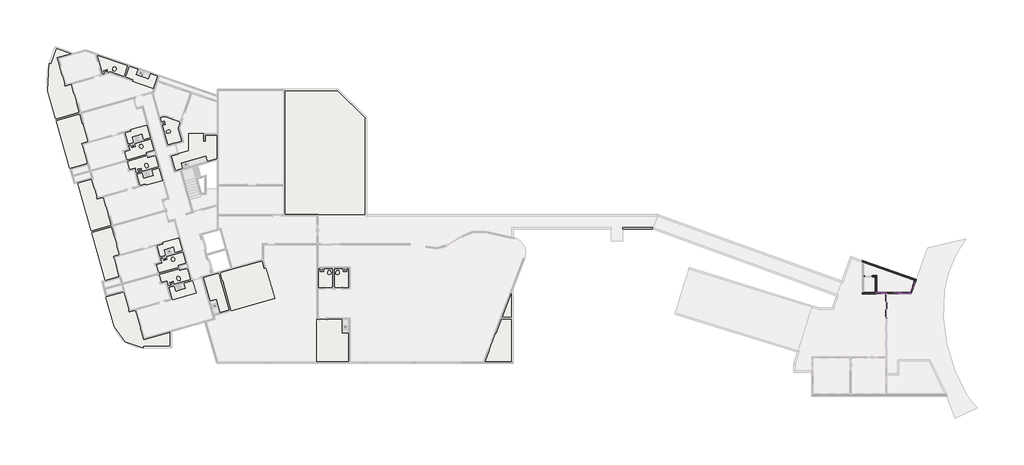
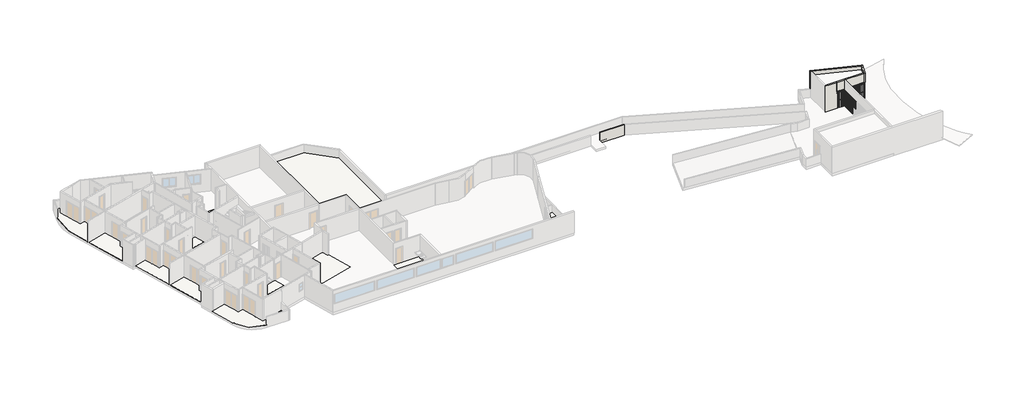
# One storey, part 5 of 7: 73 plates, 24 slabs, 8 walls.
"""IFC4 building model written with IfcOpenShell, lengths in millimetres."""

from ifc_helpers import new_model, si_unit, point, frame, frame_2d, origin, place, context, project, spatial, polyline, circle_curve, trimmed, segment, composite_curve, outline, extrude, faceted_brep, transform, mapped, element, save
from components import painel_do_sistema_vazio_vazio_5b504051, painel_do_sistema_vazio_vazio_cea5b844, painel_do_sistema_vazio_vazio_98beb3ec, painel_do_sistema_vazio_vazio_8c16bc2d, painel_do_sistema_vazio_vazio_411dd57f, painel_do_sistema_vazio_vazio_954907b5, painel_do_sistema_vazio_vazio_9710a491, painel_do_sistema_vazio_vazio_0994bb64

model = new_model("IFC4")

# Units and contexts
model_context = context("Model", 3, world=origin())
ifc_project = project(units=[si_unit("LENGTHUNIT", "METRE", prefix="MILLI")], contexts=[model_context])

# Site, building, storey
site = spatial("IfcSite", under=ifc_project)
building = spatial("IfcBuilding", under=site)
storey = spatial("IfcBuildingStorey", under=building, Name="Térreo", Elevation=50750.0)

# Plates
placement = place(None, origin())
painel_do_sistema_vazio_vazio_shape = painel_do_sistema_vazio_vazio_5b504051(model_context)
element("IfcPlate", 1, ObjectType="Painel do sistema vazio : Vazio", at=placement, inside=storey, context=model_context, shape_type="MappedRepresentation", body=[
    mapped(painel_do_sistema_vazio_vazio_shape, transform((-7154.3595925, 10632.3610556, 50030.0), x_axis=(1.0, 0.0, 0.0), y_axis=(0.0, 1.0, 0.0), z_axis=(0.0, 0.0, 1.0))),
])
element("IfcPlate", 2, ObjectType="Painel do sistema vazio : Vazio", at=placement, inside=storey, context=model_context, shape_type="MappedRepresentation", body=[
    mapped(painel_do_sistema_vazio_vazio_shape, transform((-7154.3595925, 10632.3610556, 51065.0), x_axis=(1.0, 0.0, 0.0), y_axis=(0.0, 1.0, 0.0), z_axis=(0.0, 0.0, 1.0))),
])
element("IfcPlate", 3, ObjectType="Painel do sistema vazio : Vazio", at=placement, inside=storey, context=model_context, shape_type="MappedRepresentation", body=[
    mapped(painel_do_sistema_vazio_vazio_shape, transform((-6307.2050217, 10632.3610556, 50030.0), x_axis=(1.0, 0.0, 0.0), y_axis=(0.0, 1.0, 0.0), z_axis=(0.0, 0.0, 1.0))),
])
element("IfcPlate", 4, ObjectType="Painel do sistema vazio : Vazio", at=placement, inside=storey, context=model_context, shape_type="MappedRepresentation", body=[
    mapped(painel_do_sistema_vazio_vazio_shape, transform((-6307.2050217, 10632.3610556, 51065.0), x_axis=(1.0, 0.0, 0.0), y_axis=(0.0, 1.0, 0.0), z_axis=(0.0, 0.0, 1.0))),
])
painel_do_sistema_vazio_vazio_2_shape = painel_do_sistema_vazio_vazio_cea5b844(model_context)
element("IfcPlate", 5, ObjectType="Painel do sistema vazio : Vazio", at=placement, inside=storey, context=model_context, shape_type="MappedRepresentation", body=[
    mapped(painel_do_sistema_vazio_vazio_2_shape, transform((-6989.4286782, 10632.3610556, 50030.0), x_axis=(1.0, 0.0, 0.0), y_axis=(0.0, 1.0, 0.0), z_axis=(0.0, 0.0, 1.0))),
])
element("IfcPlate", 6, ObjectType="Painel do sistema vazio : Vazio", at=placement, inside=storey, context=model_context, shape_type="MappedRepresentation", body=[
    mapped(painel_do_sistema_vazio_vazio_2_shape, transform((-6816.9977641, 10632.3610556, 50030.0), x_axis=(1.0, 0.0, 0.0), y_axis=(0.0, 1.0, 0.0), z_axis=(0.0, 0.0, 1.0))),
])
element("IfcPlate", 7, ObjectType="Painel do sistema vazio : Vazio", at=placement, inside=storey, context=model_context, shape_type="MappedRepresentation", body=[
    mapped(painel_do_sistema_vazio_vazio_2_shape, transform((-6644.56685, 10632.3610556, 50030.0), x_axis=(1.0, 0.0, 0.0), y_axis=(0.0, 1.0, 0.0), z_axis=(0.0, 0.0, 1.0))),
])
element("IfcPlate", 8, ObjectType="Painel do sistema vazio : Vazio", at=placement, inside=storey, context=model_context, shape_type="MappedRepresentation", body=[
    mapped(painel_do_sistema_vazio_vazio_2_shape, transform((-6472.1359359, 10632.3610556, 50030.0), x_axis=(1.0, 0.0, 0.0), y_axis=(0.0, 1.0, 0.0), z_axis=(0.0, 0.0, 1.0))),
])
element("IfcPlate", 9, ObjectType="Painel do sistema vazio : Vazio", at=placement, inside=storey, context=model_context, shape_type="MappedRepresentation", body=[
    mapped(painel_do_sistema_vazio_vazio_2_shape, transform((-6989.4286782, 10632.3610556, 51065.0), x_axis=(1.0, 0.0, 0.0), y_axis=(0.0, 1.0, 0.0), z_axis=(0.0, 0.0, 1.0))),
])
element("IfcPlate", 10, ObjectType="Painel do sistema vazio : Vazio", at=placement, inside=storey, context=model_context, shape_type="MappedRepresentation", body=[
    mapped(painel_do_sistema_vazio_vazio_2_shape, transform((-6816.9977641, 10632.3610556, 51065.0), x_axis=(1.0, 0.0, 0.0), y_axis=(0.0, 1.0, 0.0), z_axis=(0.0, 0.0, 1.0))),
])
element("IfcPlate", 11, ObjectType="Painel do sistema vazio : Vazio", at=placement, inside=storey, context=model_context, shape_type="MappedRepresentation", body=[
    mapped(painel_do_sistema_vazio_vazio_2_shape, transform((-6644.56685, 10632.3610556, 51065.0), x_axis=(1.0, 0.0, 0.0), y_axis=(0.0, 1.0, 0.0), z_axis=(0.0, 0.0, 1.0))),
])
element("IfcPlate", 12, ObjectType="Painel do sistema vazio : Vazio", at=placement, inside=storey, context=model_context, shape_type="MappedRepresentation", body=[
    mapped(painel_do_sistema_vazio_vazio_2_shape, transform((-6472.1359359, 10632.3610556, 51065.0), x_axis=(1.0, 0.0, 0.0), y_axis=(0.0, 1.0, 0.0), z_axis=(0.0, 0.0, 1.0))),
])
painel_do_sistema_vazio_vazio_3_shape = painel_do_sistema_vazio_vazio_98beb3ec(model_context)
element("IfcPlate", 13, ObjectType="Painel do sistema vazio : Vazio", at=placement, inside=storey, context=model_context, shape_type="MappedRepresentation", body=[
    mapped(painel_do_sistema_vazio_vazio_3_shape, transform((-5921.5446431, 10632.3610556, 50030.0), x_axis=(1.0, 0.0, 0.0), y_axis=(0.0, 1.0, 0.0), z_axis=(0.0, 0.0, 1.0))),
])
element("IfcPlate", 14, ObjectType="Painel do sistema vazio : Vazio", at=placement, inside=storey, context=model_context, shape_type="MappedRepresentation", body=[
    mapped(painel_do_sistema_vazio_vazio_3_shape, transform((-5726.9146956, 10632.3610556, 50030.0), x_axis=(1.0, 0.0, 0.0), y_axis=(0.0, 1.0, 0.0), z_axis=(0.0, 0.0, 1.0))),
])
element("IfcPlate", 15, ObjectType="Painel do sistema vazio : Vazio", at=placement, inside=storey, context=model_context, shape_type="MappedRepresentation", body=[
    mapped(painel_do_sistema_vazio_vazio_3_shape, transform((-5532.2847482, 10632.3610556, 50030.0), x_axis=(1.0, 0.0, 0.0), y_axis=(0.0, 1.0, 0.0), z_axis=(0.0, 0.0, 1.0))),
])
element("IfcPlate", 16, ObjectType="Painel do sistema vazio : Vazio", at=placement, inside=storey, context=model_context, shape_type="MappedRepresentation", body=[
    mapped(painel_do_sistema_vazio_vazio_3_shape, transform((-5337.6548008, 10632.3610556, 50030.0), x_axis=(1.0, 0.0, 0.0), y_axis=(0.0, 1.0, 0.0), z_axis=(0.0, 0.0, 1.0))),
])
element("IfcPlate", 17, ObjectType="Painel do sistema vazio : Vazio", at=placement, inside=storey, context=model_context, shape_type="MappedRepresentation", body=[
    mapped(painel_do_sistema_vazio_vazio_3_shape, transform((-5143.0248534, 10632.3610556, 50030.0), x_axis=(1.0, 0.0, 0.0), y_axis=(0.0, 1.0, 0.0), z_axis=(0.0, 0.0, 1.0))),
])
element("IfcPlate", 18, ObjectType="Painel do sistema vazio : Vazio", at=placement, inside=storey, context=model_context, shape_type="MappedRepresentation", body=[
    mapped(painel_do_sistema_vazio_vazio_3_shape, transform((-4948.3949059, 10632.3610556, 50030.0), x_axis=(1.0, 0.0, 0.0), y_axis=(0.0, 1.0, 0.0), z_axis=(0.0, 0.0, 1.0))),
])
element("IfcPlate", 19, ObjectType="Painel do sistema vazio : Vazio", at=placement, inside=storey, context=model_context, shape_type="MappedRepresentation", body=[
    mapped(painel_do_sistema_vazio_vazio_3_shape, transform((-4753.7649585, 10632.3610556, 50030.0), x_axis=(1.0, 0.0, 0.0), y_axis=(0.0, 1.0, 0.0), z_axis=(0.0, 0.0, 1.0))),
])
element("IfcPlate", 20, ObjectType="Painel do sistema vazio : Vazio", at=placement, inside=storey, context=model_context, shape_type="MappedRepresentation", body=[
    mapped(painel_do_sistema_vazio_vazio_3_shape, transform((-5921.5446431, 10632.3610556, 51065.0), x_axis=(1.0, 0.0, 0.0), y_axis=(0.0, 1.0, 0.0), z_axis=(0.0, 0.0, 1.0))),
])
element("IfcPlate", 21, ObjectType="Painel do sistema vazio : Vazio", at=placement, inside=storey, context=model_context, shape_type="MappedRepresentation", body=[
    mapped(painel_do_sistema_vazio_vazio_3_shape, transform((-5726.9146956, 10632.3610556, 51065.0), x_axis=(1.0, 0.0, 0.0), y_axis=(0.0, 1.0, 0.0), z_axis=(0.0, 0.0, 1.0))),
])
element("IfcPlate", 22, ObjectType="Painel do sistema vazio : Vazio", at=placement, inside=storey, context=model_context, shape_type="MappedRepresentation", body=[
    mapped(painel_do_sistema_vazio_vazio_3_shape, transform((-5532.2847482, 10632.3610556, 51065.0), x_axis=(1.0, 0.0, 0.0), y_axis=(0.0, 1.0, 0.0), z_axis=(0.0, 0.0, 1.0))),
])
element("IfcPlate", 23, ObjectType="Painel do sistema vazio : Vazio", at=placement, inside=storey, context=model_context, shape_type="MappedRepresentation", body=[
    mapped(painel_do_sistema_vazio_vazio_3_shape, transform((-5337.6548008, 10632.3610556, 51065.0), x_axis=(1.0, 0.0, 0.0), y_axis=(0.0, 1.0, 0.0), z_axis=(0.0, 0.0, 1.0))),
])
element("IfcPlate", 24, ObjectType="Painel do sistema vazio : Vazio", at=placement, inside=storey, context=model_context, shape_type="MappedRepresentation", body=[
    mapped(painel_do_sistema_vazio_vazio_3_shape, transform((-5143.0248534, 10632.3610556, 51065.0), x_axis=(1.0, 0.0, 0.0), y_axis=(0.0, 1.0, 0.0), z_axis=(0.0, 0.0, 1.0))),
])
element("IfcPlate", 25, ObjectType="Painel do sistema vazio : Vazio", at=placement, inside=storey, context=model_context, shape_type="MappedRepresentation", body=[
    mapped(painel_do_sistema_vazio_vazio_3_shape, transform((-4948.3949059, 10632.3610556, 51065.0), x_axis=(1.0, 0.0, 0.0), y_axis=(0.0, 1.0, 0.0), z_axis=(0.0, 0.0, 1.0))),
])
element("IfcPlate", 26, ObjectType="Painel do sistema vazio : Vazio", at=placement, inside=storey, context=model_context, shape_type="MappedRepresentation", body=[
    mapped(painel_do_sistema_vazio_vazio_3_shape, transform((-4753.7649585, 10632.3610556, 51065.0), x_axis=(1.0, 0.0, 0.0), y_axis=(0.0, 1.0, 0.0), z_axis=(0.0, 0.0, 1.0))),
])
element("IfcPlate", 27, ObjectType="Painel do sistema vazio : Vazio", at=placement, inside=storey, context=model_context, shape_type="MappedRepresentation", body=[
    mapped(painel_do_sistema_vazio_vazio_3_shape, transform((-4559.1350111, 10632.3610556, 50030.0), x_axis=(1.0, 0.0, 0.0), y_axis=(0.0, 1.0, 0.0), z_axis=(0.0, 0.0, 1.0))),
])
element("IfcPlate", 28, ObjectType="Painel do sistema vazio : Vazio", at=placement, inside=storey, context=model_context, shape_type="MappedRepresentation", body=[
    mapped(painel_do_sistema_vazio_vazio_3_shape, transform((-4559.1350111, 10632.3610556, 51065.0), x_axis=(1.0, 0.0, 0.0), y_axis=(0.0, 1.0, 0.0), z_axis=(0.0, 0.0, 1.0))),
])
element("IfcPlate", 29, ObjectType="Painel do sistema vazio : Vazio", at=placement, inside=storey, context=model_context, shape_type="MappedRepresentation", body=[
    mapped(painel_do_sistema_vazio_vazio_3_shape, transform((-4364.5050637, 10632.3610556, 50030.0), x_axis=(1.0, 0.0, 0.0), y_axis=(0.0, 1.0, 0.0), z_axis=(0.0, 0.0, 1.0))),
])
element("IfcPlate", 30, ObjectType="Painel do sistema vazio : Vazio", at=placement, inside=storey, context=model_context, shape_type="MappedRepresentation", body=[
    mapped(painel_do_sistema_vazio_vazio_3_shape, transform((-4364.5050637, 10632.3610556, 51065.0), x_axis=(1.0, 0.0, 0.0), y_axis=(0.0, 1.0, 0.0), z_axis=(0.0, 0.0, 1.0))),
])
element("IfcPlate", 31, ObjectType="Painel do sistema vazio : Vazio", at=placement, inside=storey, context=model_context, shape_type="MappedRepresentation", body=[
    mapped(painel_do_sistema_vazio_vazio_3_shape, transform((-4169.8751163, 10632.3610556, 50030.0), x_axis=(1.0, 0.0, 0.0), y_axis=(0.0, 1.0, 0.0), z_axis=(0.0, 0.0, 1.0))),
])
element("IfcPlate", 32, ObjectType="Painel do sistema vazio : Vazio", at=placement, inside=storey, context=model_context, shape_type="MappedRepresentation", body=[
    mapped(painel_do_sistema_vazio_vazio_3_shape, transform((-4169.8751163, 10632.3610556, 51065.0), x_axis=(1.0, 0.0, 0.0), y_axis=(0.0, 1.0, 0.0), z_axis=(0.0, 0.0, 1.0))),
])
element("IfcPlate", 33, ObjectType="Painel do sistema vazio : Vazio", at=placement, inside=storey, context=model_context, shape_type="MappedRepresentation", body=[
    mapped(painel_do_sistema_vazio_vazio_3_shape, transform((-3975.2451688, 10632.3610556, 50030.0), x_axis=(1.0, 0.0, 0.0), y_axis=(0.0, 1.0, 0.0), z_axis=(0.0, 0.0, 1.0))),
])
element("IfcPlate", 34, ObjectType="Painel do sistema vazio : Vazio", at=placement, inside=storey, context=model_context, shape_type="MappedRepresentation", body=[
    mapped(painel_do_sistema_vazio_vazio_3_shape, transform((-3975.2451688, 10632.3610556, 51065.0), x_axis=(1.0, 0.0, 0.0), y_axis=(0.0, 1.0, 0.0), z_axis=(0.0, 0.0, 1.0))),
])
painel_do_sistema_vazio_vazio_4_shape = painel_do_sistema_vazio_vazio_8c16bc2d(model_context)
element("IfcPlate", 35, ObjectType="Painel do sistema vazio : Vazio", at=placement, inside=storey, context=model_context, shape_type="MappedRepresentation", body=[
    mapped(painel_do_sistema_vazio_vazio_4_shape, transform((-3340.1006139, 11602.8896623, 50030.0), x_axis=(-0.33339028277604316, -0.942788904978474, 0.0), y_axis=(0.942788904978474, -0.33339028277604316, 0.0), z_axis=(0.0, 0.0, 1.0))),
])
element("IfcPlate", 36, ObjectType="Painel do sistema vazio : Vazio", at=placement, inside=storey, context=model_context, shape_type="MappedRepresentation", body=[
    mapped(painel_do_sistema_vazio_vazio_4_shape, transform((-3649.372542, 10728.3046565, 50030.0), x_axis=(-0.33339028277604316, -0.942788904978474, 0.0), y_axis=(0.942788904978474, -0.33339028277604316, 0.0), z_axis=(0.0, 0.0, 1.0))),
])
element("IfcPlate", 37, ObjectType="Painel do sistema vazio : Vazio", at=placement, inside=storey, context=model_context, shape_type="MappedRepresentation", body=[
    mapped(painel_do_sistema_vazio_vazio_4_shape, transform((-3340.1006139, 11602.8896623, 51065.0), x_axis=(-0.33339028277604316, -0.942788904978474, 0.0), y_axis=(0.942788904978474, -0.33339028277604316, 0.0), z_axis=(0.0, 0.0, 1.0))),
])
element("IfcPlate", 38, ObjectType="Painel do sistema vazio : Vazio", at=placement, inside=storey, context=model_context, shape_type="MappedRepresentation", body=[
    mapped(painel_do_sistema_vazio_vazio_4_shape, transform((-3649.372542, 10728.3046565, 51065.0), x_axis=(-0.33339028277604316, -0.942788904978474, 0.0), y_axis=(0.942788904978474, -0.33339028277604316, 0.0), z_axis=(0.0, 0.0, 1.0))),
])
painel_do_sistema_vazio_vazio_5_shape = painel_do_sistema_vazio_vazio_411dd57f(model_context)
element("IfcPlate", 39, ObjectType="Painel do sistema vazio : Vazio", at=placement, inside=storey, context=model_context, shape_type="MappedRepresentation", body=[
    mapped(painel_do_sistema_vazio_vazio_5_shape, transform((-3400.4547433, 11432.2152111, 50030.0), x_axis=(-0.33339028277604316, -0.942788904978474, 0.0), y_axis=(0.942788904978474, -0.33339028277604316, 0.0), z_axis=(0.0, 0.0, 1.0))),
])
element("IfcPlate", 40, ObjectType="Painel do sistema vazio : Vazio", at=placement, inside=storey, context=model_context, shape_type="MappedRepresentation", body=[
    mapped(painel_do_sistema_vazio_vazio_5_shape, transform((-3463.3092997, 11254.4698433, 50030.0), x_axis=(-0.33339028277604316, -0.942788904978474, 0.0), y_axis=(0.942788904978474, -0.33339028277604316, 0.0), z_axis=(0.0, 0.0, 1.0))),
])
element("IfcPlate", 41, ObjectType="Painel do sistema vazio : Vazio", at=placement, inside=storey, context=model_context, shape_type="MappedRepresentation", body=[
    mapped(painel_do_sistema_vazio_vazio_5_shape, transform((-3526.1638562, 11076.7244755, 50030.0), x_axis=(-0.33339028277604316, -0.942788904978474, 0.0), y_axis=(0.942788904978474, -0.33339028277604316, 0.0), z_axis=(0.0, 0.0, 1.0))),
])
element("IfcPlate", 42, ObjectType="Painel do sistema vazio : Vazio", at=placement, inside=storey, context=model_context, shape_type="MappedRepresentation", body=[
    mapped(painel_do_sistema_vazio_vazio_5_shape, transform((-3589.0184126, 10898.9791076, 50030.0), x_axis=(-0.33339028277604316, -0.942788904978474, 0.0), y_axis=(0.942788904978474, -0.33339028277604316, 0.0), z_axis=(0.0, 0.0, 1.0))),
])
element("IfcPlate", 43, ObjectType="Painel do sistema vazio : Vazio", at=placement, inside=storey, context=model_context, shape_type="MappedRepresentation", body=[
    mapped(painel_do_sistema_vazio_vazio_5_shape, transform((-3400.4547433, 11432.2152111, 51065.0), x_axis=(-0.33339028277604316, -0.942788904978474, 0.0), y_axis=(0.942788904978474, -0.33339028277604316, 0.0), z_axis=(0.0, 0.0, 1.0))),
])
element("IfcPlate", 44, ObjectType="Painel do sistema vazio : Vazio", at=placement, inside=storey, context=model_context, shape_type="MappedRepresentation", body=[
    mapped(painel_do_sistema_vazio_vazio_5_shape, transform((-3463.3092997, 11254.4698433, 51065.0), x_axis=(-0.33339028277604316, -0.942788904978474, 0.0), y_axis=(0.942788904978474, -0.33339028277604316, 0.0), z_axis=(0.0, 0.0, 1.0))),
])
element("IfcPlate", 45, ObjectType="Painel do sistema vazio : Vazio", at=placement, inside=storey, context=model_context, shape_type="MappedRepresentation", body=[
    mapped(painel_do_sistema_vazio_vazio_5_shape, transform((-3526.1638562, 11076.7244755, 51065.0), x_axis=(-0.33339028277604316, -0.942788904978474, 0.0), y_axis=(0.942788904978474, -0.33339028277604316, 0.0), z_axis=(0.0, 0.0, 1.0))),
])
element("IfcPlate", 46, ObjectType="Painel do sistema vazio : Vazio", at=placement, inside=storey, context=model_context, shape_type="MappedRepresentation", body=[
    mapped(painel_do_sistema_vazio_vazio_5_shape, transform((-3589.0184126, 10898.9791076, 51065.0), x_axis=(-0.33339028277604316, -0.942788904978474, 0.0), y_axis=(0.942788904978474, -0.33339028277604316, 0.0), z_axis=(0.0, 0.0, 1.0))),
])
painel_do_sistema_vazio_vazio_6_shape = painel_do_sistema_vazio_vazio_954907b5(model_context)
element("IfcPlate", 47, ObjectType="Painel do sistema vazio : Vazio", at=placement, inside=storey, context=model_context, shape_type="MappedRepresentation", body=[
    mapped(painel_do_sistema_vazio_vazio_6_shape, transform((-6213.4895645, 10525.6657681, 50030.0), x_axis=(0.0, 1.0, 0.0), y_axis=(-1.0, 0.0, 0.0), z_axis=(0.0, 0.0, 1.0))),
])
element("IfcPlate", 48, ObjectType="Painel do sistema vazio : Vazio", at=placement, inside=storey, context=model_context, shape_type="MappedRepresentation", body=[
    mapped(painel_do_sistema_vazio_vazio_6_shape, transform((-6213.4895645, 10525.6657681, 51065.0), x_axis=(0.0, 1.0, 0.0), y_axis=(-1.0, 0.0, 0.0), z_axis=(0.0, 0.0, 1.0))),
])
painel_do_sistema_vazio_vazio_7_shape = painel_do_sistema_vazio_vazio_9710a491(model_context)
element("IfcPlate", 49, ObjectType="Painel do sistema vazio : Vazio", at=placement, inside=storey, context=model_context, shape_type="MappedRepresentation", body=[
    mapped(painel_do_sistema_vazio_vazio_7_shape, transform((-6213.4895645, 8747.6505946, 50030.0), x_axis=(0.0, 1.0, 0.0), y_axis=(-1.0, 0.0, 0.0), z_axis=(0.0, 0.0, 1.0))),
])
element("IfcPlate", 50, ObjectType="Painel do sistema vazio : Vazio", at=placement, inside=storey, context=model_context, shape_type="MappedRepresentation", body=[
    mapped(painel_do_sistema_vazio_vazio_7_shape, transform((-6213.4895645, 8946.0411694, 50030.0), x_axis=(0.0, 1.0, 0.0), y_axis=(-1.0, 0.0, 0.0), z_axis=(0.0, 0.0, 1.0))),
])
element("IfcPlate", 51, ObjectType="Painel do sistema vazio : Vazio", at=placement, inside=storey, context=model_context, shape_type="MappedRepresentation", body=[
    mapped(painel_do_sistema_vazio_vazio_7_shape, transform((-6213.4895645, 8152.4788702, 51065.0), x_axis=(0.0, 1.0, 0.0), y_axis=(-1.0, 0.0, 0.0), z_axis=(0.0, 0.0, 1.0))),
])
element("IfcPlate", 52, ObjectType="Painel do sistema vazio : Vazio", at=placement, inside=storey, context=model_context, shape_type="MappedRepresentation", body=[
    mapped(painel_do_sistema_vazio_vazio_7_shape, transform((-6213.4895645, 8350.869445, 51065.0), x_axis=(0.0, 1.0, 0.0), y_axis=(-1.0, 0.0, 0.0), z_axis=(0.0, 0.0, 1.0))),
])
element("IfcPlate", 53, ObjectType="Painel do sistema vazio : Vazio", at=placement, inside=storey, context=model_context, shape_type="MappedRepresentation", body=[
    mapped(painel_do_sistema_vazio_vazio_7_shape, transform((-6213.4895645, 8549.2600198, 51065.0), x_axis=(0.0, 1.0, 0.0), y_axis=(-1.0, 0.0, 0.0), z_axis=(0.0, 0.0, 1.0))),
])
element("IfcPlate", 54, ObjectType="Painel do sistema vazio : Vazio", at=placement, inside=storey, context=model_context, shape_type="MappedRepresentation", body=[
    mapped(painel_do_sistema_vazio_vazio_7_shape, transform((-6213.4895645, 8747.6505946, 51065.0), x_axis=(0.0, 1.0, 0.0), y_axis=(-1.0, 0.0, 0.0), z_axis=(0.0, 0.0, 1.0))),
])
element("IfcPlate", 55, ObjectType="Painel do sistema vazio : Vazio", at=placement, inside=storey, context=model_context, shape_type="MappedRepresentation", body=[
    mapped(painel_do_sistema_vazio_vazio_7_shape, transform((-6213.4895645, 8946.0411694, 51065.0), x_axis=(0.0, 1.0, 0.0), y_axis=(-1.0, 0.0, 0.0), z_axis=(0.0, 0.0, 1.0))),
])
element("IfcPlate", 56, ObjectType="Painel do sistema vazio : Vazio", at=placement, inside=storey, context=model_context, shape_type="MappedRepresentation", body=[
    mapped(painel_do_sistema_vazio_vazio_7_shape, transform((-6213.4895645, 9144.4317442, 50030.0), x_axis=(0.0, 1.0, 0.0), y_axis=(-1.0, 0.0, 0.0), z_axis=(0.0, 0.0, 1.0))),
])
element("IfcPlate", 57, ObjectType="Painel do sistema vazio : Vazio", at=placement, inside=storey, context=model_context, shape_type="MappedRepresentation", body=[
    mapped(painel_do_sistema_vazio_vazio_7_shape, transform((-6213.4895645, 9144.4317442, 51065.0), x_axis=(0.0, 1.0, 0.0), y_axis=(-1.0, 0.0, 0.0), z_axis=(0.0, 0.0, 1.0))),
])
element("IfcPlate", 58, ObjectType="Painel do sistema vazio : Vazio", at=placement, inside=storey, context=model_context, shape_type="MappedRepresentation", body=[
    mapped(painel_do_sistema_vazio_vazio_7_shape, transform((-6213.4895645, 9342.822319, 50030.0), x_axis=(0.0, 1.0, 0.0), y_axis=(-1.0, 0.0, 0.0), z_axis=(0.0, 0.0, 1.0))),
])
element("IfcPlate", 59, ObjectType="Painel do sistema vazio : Vazio", at=placement, inside=storey, context=model_context, shape_type="MappedRepresentation", body=[
    mapped(painel_do_sistema_vazio_vazio_7_shape, transform((-6213.4895645, 9342.822319, 51065.0), x_axis=(0.0, 1.0, 0.0), y_axis=(-1.0, 0.0, 0.0), z_axis=(0.0, 0.0, 1.0))),
])
element("IfcPlate", 60, ObjectType="Painel do sistema vazio : Vazio", at=placement, inside=storey, context=model_context, shape_type="MappedRepresentation", body=[
    mapped(painel_do_sistema_vazio_vazio_7_shape, transform((-6213.4895645, 9541.2128938, 50030.0), x_axis=(0.0, 1.0, 0.0), y_axis=(-1.0, 0.0, 0.0), z_axis=(0.0, 0.0, 1.0))),
])
element("IfcPlate", 61, ObjectType="Painel do sistema vazio : Vazio", at=placement, inside=storey, context=model_context, shape_type="MappedRepresentation", body=[
    mapped(painel_do_sistema_vazio_vazio_7_shape, transform((-6213.4895645, 9541.2128938, 51065.0), x_axis=(0.0, 1.0, 0.0), y_axis=(-1.0, 0.0, 0.0), z_axis=(0.0, 0.0, 1.0))),
])
element("IfcPlate", 62, ObjectType="Painel do sistema vazio : Vazio", at=placement, inside=storey, context=model_context, shape_type="MappedRepresentation", body=[
    mapped(painel_do_sistema_vazio_vazio_7_shape, transform((-6213.4895645, 9739.6034687, 50030.0), x_axis=(0.0, 1.0, 0.0), y_axis=(-1.0, 0.0, 0.0), z_axis=(0.0, 0.0, 1.0))),
])
element("IfcPlate", 63, ObjectType="Painel do sistema vazio : Vazio", at=placement, inside=storey, context=model_context, shape_type="MappedRepresentation", body=[
    mapped(painel_do_sistema_vazio_vazio_7_shape, transform((-6213.4895645, 9739.6034687, 51065.0), x_axis=(0.0, 1.0, 0.0), y_axis=(-1.0, 0.0, 0.0), z_axis=(0.0, 0.0, 1.0))),
])
element("IfcPlate", 64, ObjectType="Painel do sistema vazio : Vazio", at=placement, inside=storey, context=model_context, shape_type="MappedRepresentation", body=[
    mapped(painel_do_sistema_vazio_vazio_7_shape, transform((-6213.4895645, 9937.9940435, 50030.0), x_axis=(0.0, 1.0, 0.0), y_axis=(-1.0, 0.0, 0.0), z_axis=(0.0, 0.0, 1.0))),
])
element("IfcPlate", 65, ObjectType="Painel do sistema vazio : Vazio", at=placement, inside=storey, context=model_context, shape_type="MappedRepresentation", body=[
    mapped(painel_do_sistema_vazio_vazio_7_shape, transform((-6213.4895645, 9937.9940435, 51065.0), x_axis=(0.0, 1.0, 0.0), y_axis=(-1.0, 0.0, 0.0), z_axis=(0.0, 0.0, 1.0))),
])
element("IfcPlate", 66, ObjectType="Painel do sistema vazio : Vazio", at=placement, inside=storey, context=model_context, shape_type="MappedRepresentation", body=[
    mapped(painel_do_sistema_vazio_vazio_7_shape, transform((-6213.4895645, 10136.3846183, 50030.0), x_axis=(0.0, 1.0, 0.0), y_axis=(-1.0, 0.0, 0.0), z_axis=(0.0, 0.0, 1.0))),
])
element("IfcPlate", 67, ObjectType="Painel do sistema vazio : Vazio", at=placement, inside=storey, context=model_context, shape_type="MappedRepresentation", body=[
    mapped(painel_do_sistema_vazio_vazio_7_shape, transform((-6213.4895645, 10136.3846183, 51065.0), x_axis=(0.0, 1.0, 0.0), y_axis=(-1.0, 0.0, 0.0), z_axis=(0.0, 0.0, 1.0))),
])
element("IfcPlate", 68, ObjectType="Painel do sistema vazio : Vazio", at=placement, inside=storey, context=model_context, shape_type="MappedRepresentation", body=[
    mapped(painel_do_sistema_vazio_vazio_7_shape, transform((-6213.4895645, 10334.7751931, 50030.0), x_axis=(0.0, 1.0, 0.0), y_axis=(-1.0, 0.0, 0.0), z_axis=(0.0, 0.0, 1.0))),
])
element("IfcPlate", 69, ObjectType="Painel do sistema vazio : Vazio", at=placement, inside=storey, context=model_context, shape_type="MappedRepresentation", body=[
    mapped(painel_do_sistema_vazio_vazio_7_shape, transform((-6213.4895645, 10334.7751931, 51065.0), x_axis=(0.0, 1.0, 0.0), y_axis=(-1.0, 0.0, 0.0), z_axis=(0.0, 0.0, 1.0))),
])
painel_do_sistema_vazio_vazio_8_shape = painel_do_sistema_vazio_vazio_0994bb64(model_context)
element("IfcPlate", 70, ObjectType="Painel do sistema vazio : Vazio", at=placement, inside=storey, context=model_context, shape_type="MappedRepresentation", body=[
    mapped(painel_do_sistema_vazio_vazio_8_shape, transform((-3788.1152213, 10632.3610556, 50030.0), x_axis=(1.0, 0.0, 0.0), y_axis=(0.0, 1.0, 0.0), z_axis=(0.0, 0.0, 1.0))),
])
element("IfcPlate", 71, ObjectType="Painel do sistema vazio : Vazio", at=placement, inside=storey, context=model_context, shape_type="MappedRepresentation", body=[
    mapped(painel_do_sistema_vazio_vazio_8_shape, transform((-3788.1152213, 10632.3610556, 51065.0), x_axis=(1.0, 0.0, 0.0), y_axis=(0.0, 1.0, 0.0), z_axis=(0.0, 0.0, 1.0))),
])
element("IfcPlate", 72, ObjectType="Painel do sistema vazio : Vazio", at=placement, inside=storey, context=model_context, shape_type="MappedRepresentation", body=[
    mapped(painel_do_sistema_vazio_vazio_8_shape, transform((-6108.6745906, 10632.3610556, 50030.0), x_axis=(1.0, 0.0, 0.0), y_axis=(0.0, 1.0, 0.0), z_axis=(0.0, 0.0, 1.0))),
])
element("IfcPlate", 73, ObjectType="Painel do sistema vazio : Vazio", at=placement, inside=storey, context=model_context, shape_type="MappedRepresentation", body=[
    mapped(painel_do_sistema_vazio_vazio_8_shape, transform((-6108.6745906, 10632.3610556, 51065.0), x_axis=(1.0, 0.0, 0.0), y_axis=(0.0, 1.0, 0.0), z_axis=(0.0, 0.0, 1.0))),
])

# Slabs
element("IfcSlab", 74, ObjectType="TZ_Piso de Áreas Molhadas", at=placement, inside=storey, context=model_context, shape_type="SweptSolid", body=[
    extrude(outline(composite_curve([segment(polyline([(-90765.4571774, 31984.341749), (-90143.7425806, 32159.9118263), (-89328.438678, 29272.823406), (-91766.0080564, 28584.4621444), (-92573.2320087, 31442.9384962)]), True, "CONTINUOUS"), segment(trimmed(circle_curve(frame_2d((-87414.5556743, 32622.5665107)), 5291.829908), [point((-92573.2320087, 31442.9384962))], [point((-92422.0860726, 34333.7366032))], False, "CARTESIAN"), True, "CONTINUOUS"), segment(polyline([(-92422.0860726, 34333.7366032), (-92280.2794148, 34284.6132387), (-91729.7010481, 35873.9929322), (-90151.0501028, 35327.1311202), (-91594.3494784, 34919.5483093), (-90765.4571774, 31984.341749)]), True, "CONTINUOUS")], self_intersect=False)), frame((0.0, 0.0, 50750.0), z_axis=(0.0, 0.0, 1.0), x_axis=(1.0, 0.0, 0.0)), (0.0, 0.0, 1.0), 20.0),
])
element("IfcSlab", 75, ObjectType="TZ_Piso de Áreas Molhadas", at=placement, inside=storey, context=model_context, shape_type="SweptSolid", body=[
    extrude(outline(polyline([(-88472.3695802, 26241.3805647), (-89094.084177, 26065.8104874), (-88509.7830468, 23996.7304529), (-90325.6378284, 23483.9392686), (-91725.2428613, 28440.1077234), (-89287.6734828, 29128.468985), (-88472.3695802, 26241.3805647)])), frame((0.0, 0.0, 50750.0), z_axis=(0.0, 0.0, 1.0), x_axis=(1.0, 0.0, 0.0)), (0.0, 0.0, 1.0), 20.0),
])
element("IfcSlab", 76, ObjectType="TZ_Piso de Áreas Molhadas", at=placement, inside=storey, context=model_context, shape_type="SweptSolid", body=[
    extrude(outline(polyline([(-86855.3501733, 20515.3218645), (-86040.0462707, 17628.2334443), (-88109.1263052, 17043.9323141), (-89508.731338, 22000.1007688), (-88061.3659003, 22408.8318218), (-87477.0647701, 20339.7517872), (-86855.3501733, 20515.3218645)])), frame((0.0, 0.0, 50750.0), z_axis=(0.0, 0.0, 1.0), x_axis=(1.0, 0.0, 0.0)), (0.0, 0.0, 1.0), 20.0),
])
element("IfcSlab", 77, ObjectType="TZ_Piso de Áreas Molhadas", at=placement, inside=storey, context=model_context, shape_type="SweptSolid", body=[
    extrude(outline(polyline([(-78926.5637691, 28284.9851582), (-79146.9727346, 27648.7205404), (-78771.1333302, 26317.8283554), (-80214.6775403, 25910.176404), (-81004.3851492, 28706.6252933), (-80530.2499593, 28840.5194505), (-78926.5637691, 28284.9851582)])), frame((0.0, 0.0, 50750.0), z_axis=(0.0, 0.0, 1.0), x_axis=(1.0, 0.0, 0.0)), (0.0, 0.0, 1.0), 20.0),
])
element("IfcSlab", 78, ObjectType="TZ_Piso de Áreas Molhadas", at=placement, inside=storey, context=model_context, shape_type="SweptSolid", body=[
    extrude(outline(polyline([(-78070.9150345, 27060.8243598), (-76493.6479314, 27060.8243598), (-76493.6479314, 26310.8243598), (-76343.6479314, 26310.8243598), (-76343.6479314, 26910.8243598), (-75147.8282189, 26910.8243598), (-75147.8282189, 24483.4871675), (-79467.3156296, 23263.6786855), (-79888.5559793, 24755.3410359), (-79127.7601479, 24970.1871785), (-79141.3485461, 25018.3053183), (-78070.9150345, 25320.5920836), (-78070.9150345, 27060.8243598)])), frame((0.0, 0.0, 50750.0), z_axis=(0.0, 0.0, 1.0), x_axis=(1.0, 0.0, 0.0)), (0.0, 0.0, 1.0), 20.0),
])
element("IfcSlab", 79, ObjectType="TZ_Piso de Áreas Molhadas", at=placement, inside=storey, context=model_context, shape_type="SweptSolid", body=[
    extrude(outline(polyline([(-84719.4810559, 32955.6762822), (-86137.8721095, 33447.0223292), (-86956.7711455, 33215.7680402), (-87515.4733556, 35194.1992432), (-84326.6881589, 34089.5694606), (-84719.4810559, 32955.6762822)])), frame((0.0, 0.0, 50750.0), z_axis=(0.0, 0.0, 1.0), x_axis=(1.0, 0.0, 0.0)), (0.0, 0.0, 1.0), 20.0),
])
element("IfcSlab", 80, ObjectType="TZ_Piso de Áreas Molhadas", at=placement, inside=storey, context=model_context, shape_type="SweptSolid", body=[
    extrude(outline(polyline([(-84577.7444086, 32906.57717), (-84184.9515116, 34040.4703485), (-81226.8582774, 33015.7547641), (-81668.7502865, 31740.1249383), (-83870.9147351, 32502.9785914), (-83821.815623, 32644.7152387), (-84577.7444086, 32906.57717)])), frame((0.0, 0.0, 50750.0), z_axis=(0.0, 0.0, 1.0), x_axis=(1.0, 0.0, 0.0)), (0.0, 0.0, 1.0), 20.0),
])
element("IfcSlab", 81, ObjectType="TZ_Piso de Áreas Molhadas", at=placement, inside=storey, context=model_context, shape_type="SweptSolid", body=[
    extrude(outline(polyline([(-81949.8925784, 26524.6420501), (-81623.7710174, 25369.806682), (-82432.1557751, 25141.5215893), (-82377.8021816, 24949.0490279), (-84456.5058441, 24362.030218), (-84701.0970149, 25228.1567441), (-84123.6793309, 25391.2175246), (-84259.5633146, 25872.398928), (-81949.8925784, 26524.6420501)])), frame((0.0, 0.0, 50750.0), z_axis=(0.0, 0.0, 1.0), x_axis=(1.0, 0.0, 0.0)), (0.0, 0.0, 1.0), 20.0),
])
element("IfcSlab", 82, ObjectType="TZ_Piso de Áreas Molhadas", at=placement, inside=storey, context=model_context, shape_type="SweptSolid", body=[
    extrude(outline(polyline([(-84089.7975819, 27479.0039186), (-82357.5445298, 27968.1862602), (-81990.6577736, 26668.9964711), (-84300.3285098, 26016.753349), (-84626.4500708, 27171.5887171), (-84049.0323868, 27334.6494976), (-84089.7975819, 27479.0039186)])), frame((0.0, 0.0, 50750.0), z_axis=(0.0, 0.0, 1.0), x_axis=(1.0, 0.0, 0.0)), (0.0, 0.0, 1.0), 20.0),
])
element("IfcSlab", 83, ObjectType="TZ_Piso de Áreas Molhadas", at=placement, inside=storey, context=model_context, shape_type="SweptSolid", body=[
    extrude(outline(polyline([(-84171.1494782, 23351.5492709), (-84415.740649, 24217.675797), (-82337.0369864, 24804.6946069), (-82282.6833929, 24612.2220455), (-81474.2986352, 24840.5071383), (-81148.1770742, 23685.6717702), (-83457.8478104, 23033.4286481), (-83593.7317942, 23514.6100514), (-84171.1494782, 23351.5492709)])), frame((0.0, 0.0, 50750.0), z_axis=(0.0, 0.0, 1.0), x_axis=(1.0, 0.0, 0.0)), (0.0, 0.0, 1.0), 20.0),
])
element("IfcSlab", 84, ObjectType="TZ_Piso de Áreas Molhadas", at=placement, inside=storey, context=model_context, shape_type="SweptSolid", body=[
    extrude(outline(composite_curve([segment(polyline([(-79945.4990038, 5119.4122055), (-82713.5540687, 5119.4122055), (-82713.5540687, 4969.4122055), (-82751.3896972, 4969.4122055)]), True, "CONTINUOUS"), segment(trimmed(circle_curve(frame_2d((-82751.3896972, 8069.4122055)), 3100.0), [point((-82751.3896972, 4969.4122055))], [point((-85734.7143981, 7226.9315061))], False, "CARTESIAN"), True, "CONTINUOUS"), segment(polyline([(-85734.7143981, 7226.9315061), (-86588.8282733, 10251.4506708), (-84772.9735093, 10764.2419177), (-84188.6722855, 8695.1618243), (-83566.957766, 8870.7319029), (-82710.8885369, 5839.2889958), (-79945.4990038, 6620.2256515), (-79945.4990038, 5119.4122055)]), True, "CONTINUOUS")], self_intersect=False)), frame((0.0, 0.0, 50750.0), z_axis=(0.0, 0.0, 1.0), x_axis=(1.0, 0.0, 0.0)), (0.0, 0.0, 1.0), 20.0),
])
element("IfcSlab", 85, ObjectType="TZ_Piso de Áreas Molhadas", at=placement, inside=storey, context=model_context, shape_type="SweptSolid", body=[
    extrude(outline(polyline([(-78185.906228, 13195.9171766), (-77859.7846669, 12041.0818085), (-80169.4554031, 11388.8386864), (-80305.3393869, 11870.0200898), (-80882.7570709, 11706.9593092), (-81127.3482417, 12573.0858353), (-79048.6445791, 13160.1046452), (-78994.2909856, 12967.6320839), (-78185.906228, 13195.9171766)])), frame((0.0, 0.0, 50750.0), z_axis=(0.0, 0.0, 1.0), x_axis=(1.0, 0.0, 0.0)), (0.0, 0.0, 1.0), 20.0),
])
element("IfcSlab", 86, ObjectType="TZ_Piso de Áreas Molhadas", at=placement, inside=storey, context=model_context, shape_type="SweptSolid", body=[
    extrude(outline(polyline([(-77307.7782946, 10638.3027935), (-79761.8034518, 9945.2944763), (-80128.690208, 11244.4842654), (-77674.6650508, 11937.4925826), (-77307.7782946, 10638.3027935)])), frame((0.0, 0.0, 50750.0), z_axis=(0.0, 0.0, 1.0), x_axis=(1.0, 0.0, 0.0)), (0.0, 0.0, 1.0), 20.0),
])
element("IfcSlab", 87, ObjectType="TZ_Piso de Áreas Molhadas", at=placement, inside=storey, context=model_context, shape_type="SweptSolid", body=[
    extrude(outline(polyline([(-81107.9410005, 23543.1910314), (-80740.5251229, 22242.1275601), (-82472.778175, 21752.9452185), (-82513.5433702, 21897.2996395), (-83090.9610542, 21734.238859), (-83418.0192411, 22888.8089065), (-81107.9410005, 23543.1910314)])), frame((0.0, 0.0, 50750.0), z_axis=(0.0, 0.0, 1.0), x_axis=(1.0, 0.0, 0.0)), (0.0, 0.0, 1.0), 20.0),
])
element("IfcSlab", 88, ObjectType="TZ_Piso de Áreas Molhadas", at=placement, inside=storey, context=model_context, shape_type="SweptSolid", body=[
    extrude(outline(polyline([(-85183.9771729, 14596.790603), (-85805.6917697, 14421.2205257), (-85221.3906395, 12352.1404912), (-86668.7560772, 11943.4094383), (-88068.36111, 16899.5778931), (-85999.2810755, 17483.8790233), (-85183.9771729, 14596.790603)])), frame((0.0, 0.0, 50750.0), z_axis=(0.0, 0.0, 1.0), x_axis=(1.0, 0.0, 0.0)), (0.0, 0.0, 1.0), 20.0),
])
element("IfcSlab", 89, ObjectType="TZ_Piso de Áreas Molhadas", at=placement, inside=storey, context=model_context, shape_type="SweptSolid", body=[
    extrude(outline(polyline([(-81412.7046076, 13583.5667824), (-80835.2869236, 13746.6275629), (-80971.1709074, 14227.8089663), (-78661.5001712, 14880.0520884), (-78335.3786101, 13725.2167203), (-79143.7633678, 13496.9316276), (-79089.4097743, 13304.4590662), (-81168.1134368, 12717.4402563), (-81412.7046076, 13583.5667824)])), frame((0.0, 0.0, 50750.0), z_axis=(0.0, 0.0, 1.0), x_axis=(1.0, 0.0, 0.0)), (0.0, 0.0, 1.0), 20.0),
])
element("IfcSlab", 90, ObjectType="TZ_Piso de Áreas Molhadas", at=placement, inside=storey, context=model_context, shape_type="SweptSolid", body=[
    extrude(outline(polyline([(-78701.7362448, 15022.5328272), (-81012.8731576, 14371.8995868), (-81338.0576635, 15526.9987554), (-80760.6399795, 15690.059536), (-80801.4051746, 15834.413957), (-79069.1521225, 16323.5962985), (-78701.7362448, 15022.5328272)])), frame((0.0, 0.0, 50750.0), z_axis=(0.0, 0.0, 1.0), x_axis=(1.0, 0.0, 0.0)), (0.0, 0.0, 1.0), 20.0),
])
element("IfcSlab", 91, ObjectType="TZ_Piso de Áreas Molhadas", at=placement, inside=storey, context=model_context, shape_type="SweptSolid", body=[
    extrude(outline(polyline([(-70474.4314832, 13971.0798002), (-70257.0171091, 13201.1895548), (-70112.6626881, 13241.9547499), (-69216.0278036, 10066.8636165), (-73708.1655468, 8798.2992707), (-74822.2148053, 12743.2806495), (-70474.4314832, 13971.0798002)])), frame((0.0, 0.0, 50750.0), z_axis=(0.0, 0.0, 1.0), x_axis=(1.0, 0.0, 0.0)), (0.0, 0.0, 1.0), 20.0),
])
element("IfcSlab", 92, ObjectType="TZ_Piso de Áreas Molhadas", at=placement, inside=storey, context=model_context, shape_type="SweptSolid", body=[
    extrude(outline(polyline([(-75494.778609, 8449.6322208), (-76568.0626724, 12250.2591786), (-74966.5692264, 12702.5154543), (-73893.2851629, 8901.8884966), (-75494.778609, 8449.6322208)])), frame((0.0, 0.0, 50750.0), z_axis=(0.0, 0.0, 1.0), x_axis=(1.0, 0.0, 0.0)), (0.0, 0.0, 1.0), 20.0),
])
element("IfcSlab", 93, ObjectType="TZ_Piso de Áreas Molhadas", at=placement, inside=storey, context=model_context, shape_type="SweptSolid", body=[
    extrude(outline(polyline([(-63230.7937868, 13191.8602024), (-63230.7937868, 11191.8602024), (-64730.7937868, 11191.8602024), (-64730.7937868, 13191.8602024), (-63230.7937868, 13191.8602024)])), frame((0.0, 0.0, 50750.0), z_axis=(0.0, 0.0, 1.0), x_axis=(1.0, 0.0, 0.0)), (0.0, 0.0, 1.0), 20.0),
    extrude(outline(polyline([(-61580.7937868, 13191.8602024), (-61580.7937868, 11191.8602024), (-63080.7937868, 11191.8602024), (-63080.7937868, 13191.8602024), (-61580.7937868, 13191.8602024)])), frame((0.0, 0.0, 50750.0), z_axis=(0.0, 0.0, 1.0), x_axis=(1.0, 0.0, 0.0)), (0.0, 0.0, 1.0), 20.0),
])
element("IfcSlab", 94, ObjectType="TZ_Piso de Áreas Molhadas", at=placement, inside=storey, context=model_context, shape_type="SweptSolid", body=[
    extrude(outline(polyline([(-61580.7937868, 7953.4535975), (-61580.7937868, 3561.0495751), (-64880.7937868, 3561.0495751), (-64880.7937868, 7953.4535975), (-61580.7937868, 7953.4535975)])), frame((0.0, 0.0, 50750.0), z_axis=(0.0, 0.0, 1.0), x_axis=(1.0, 0.0, 0.0)), (0.0, 0.0, 1.0), 20.0),
])
element("IfcSlab", 95, ObjectType="TZ_Piso de Áreas Molhadas", at=placement, inside=storey, context=model_context, shape_type="SweptSolid", body=[
    extrude(outline(polyline([(-44805.8696428, 7978.1204536), (-44805.8696428, 3561.0495751), (-47566.8967871, 3561.0495751), (-45857.0614022, 7978.1204536), (-44805.8696428, 7978.1204536)])), frame((0.0, 0.0, 50760.0), z_axis=(0.0, 0.0, 1.0), x_axis=(1.0, 0.0, 0.0)), (0.0, 0.0, 1.0), 20.0),
])
element("IfcSlab", 96, ObjectType="TZ_Gramado", at=placement, inside=storey, context=model_context, shape_type="SweptSolid", body=[
    extrude(outline(polyline([(-44805.8696428, 10693.6967888), (-44805.8696428, 8128.1204536), (-45798.9968352, 8128.1204536), (-44805.8696428, 10693.6967888)])), frame((0.0, 0.0, 50750.0), z_axis=(0.0, 0.0, 1.0), x_axis=(1.0, 0.0, 0.0)), (0.0, 0.0, 1.0), 20.0),
])
element("IfcSlab", 97, ObjectType="TZ_Piso de Áreas Molhadas", at=placement, inside=storey, context=model_context, shape_type="SweptSolid", body=[
    extrude(outline(polyline([(-68148.5796889, 31523.8506069), (-62701.4234226, 31523.8506069), (-59878.6137209, 28729.2690021), (-59878.6137209, 18726.6215174), (-68148.5796889, 18726.6215174), (-68148.5796889, 31523.8506069)])), frame((0.0, 0.0, 50750.0), z_axis=(0.0, 0.0, 1.0), x_axis=(1.0, 0.0, 0.0)), (0.0, 0.0, 1.0), 20.0),
])

# Walls
element("IfcWall", 98, ObjectType="Básica .15 - Externa", at=placement, inside=storey, context=model_context, shape_type="SweptSolid", body=[
    extrude(outline(polyline([(-33355.8701557, 17379.2111284), (-30256.3202971, 17379.2111284), (-30282.6654006, 17229.2111284), (-33355.8701557, 17229.2111284), (-33355.8701557, 17379.2111284)])), frame((0.0, 0.0, 50450.0), z_axis=(0.0, 0.0, 1.0), x_axis=(1.0, 0.0, 0.0)), (0.0, 0.0, 1.0), 1400.0),
])
element("IfcWall", 99, ObjectType="Básica .15 - Externa", at=placement, inside=storey, context=model_context, shape_type="Brep", body=[
    faceted_brep([(-8672.0478779, 13829.6714209, 50000.0), (-8522.0478779, 13776.6282188, 50000.0), (-3303.5362142, 11931.2510935, 50000.0), (-3303.5362142, 11931.2510935, 53500.0), (-8522.0478779, 13776.6282188, 53500.0), (-8672.0478779, 13829.6714209, 53500.0), (-8672.0478779, 13988.7738448, 49700.0), (-8672.0478779, 13988.7738448, 53500.0), (-3253.5276718, 12072.6694292, 53500.0), (-3253.5276718, 12072.6694292, 50000.0), (-3253.5276718, 12072.6694292, 49700.0), (-3261.8764988, 12049.0599185, 50000.0), (-3261.8764988, 12049.0599185, 49700.0), (-8672.0478779, 13980.0476661, 49700.0), (-8672.0478779, 13980.0476661, 50000.0)], [[[0, 1, 2, 3, 4, 5]], [[6, 7, 8, 9, 10]], [[5, 4, 3, 8, 7]], [[3, 2, 11, 12, 10, 9, 8]], [[13, 6, 10, 12]], [[2, 1, 0, 14, 11]], [[0, 5, 7, 6, 13, 14]], [[13, 12, 11, 14]]]),
])
element("IfcWall", 100, ObjectType="Básica .15 - Externa", at=placement, inside=storey, context=model_context, shape_type="Brep", body=[
    faceted_brep([(-3378.5490278, 11719.1235898, 53500.0), (-3303.5362142, 11931.2510935, 53500.0), (-3253.5276718, 12072.6694292, 53500.0), (-3253.5276718, 12072.6694292, 50000.0), (-3261.8764988, 12049.0599185, 50000.0), (-3303.5362142, 11931.2510935, 50000.0), (-3376.8820764, 11723.8375344, 50000.0), (-3376.8820764, 11723.8375344, 52100.0), (-3378.5490278, 11719.1235898, 52100.0), (-3378.5490278, 11719.1235898, 52300.0), (-3112.109336, 12022.6608868, 53500.0), (-3237.1306921, 11669.1150474, 53500.0), (-3237.1306921, 11669.1150474, 52300.0), (-3237.1306921, 11669.1150474, 52100.0), (-3235.4637407, 11673.828992, 52100.0), (-3235.4637407, 11673.828992, 50000.0), (-3112.109336, 12022.6608868, 50000.0)], [[[0, 1, 2, 3, 4, 5, 6, 7, 8, 9]], [[10, 11, 12, 13, 14, 15, 16]], [[3, 16, 15, 6, 5, 4]], [[11, 0, 9, 8, 13, 12]], [[2, 1, 0, 11, 10]], [[14, 7, 6, 15]], [[7, 14, 13, 8]], [[3, 2, 10, 16]]]),
])
element("IfcWall", 101, ObjectType="Básica .15 -  Interna", at=placement, inside=storey, context=model_context, shape_type="Brep", body=[
    faceted_brep([(-8522.0478779, 12305.6611067, 50000.0), (-8422.0478779, 12305.6611067, 50000.0), (-8422.0478779, 12305.6611067, 52100.0), (-7722.0478779, 12305.6611067, 52100.0), (-7722.0478779, 12305.6611067, 50000.0), (-7323.0750497, 12305.6611067, 50000.0), (-7173.0750497, 12305.6611067, 50000.0), (-7173.0750497, 12305.6611067, 52700.0), (-7323.0750497, 12305.6611067, 52700.0), (-8522.0478779, 12305.6611067, 52700.0), (-8422.0478779, 12455.6611067, 52100.0), (-8422.0478779, 12455.6611067, 50000.0), (-8522.0478779, 12455.6611067, 50000.0), (-8522.0478779, 12455.6611067, 52700.0), (-7173.0750497, 12455.6611067, 52700.0), (-7173.0750497, 12455.6611067, 50000.0), (-7722.0478779, 12455.6611067, 50000.0), (-7722.0478779, 12455.6611067, 52100.0)], [[[0, 1, 2, 3, 4, 5, 6, 7, 8, 9]], [[10, 11, 12, 13, 14, 15, 16, 17]], [[16, 15, 6, 5, 4]], [[12, 11, 1, 0]], [[0, 9, 13, 12]], [[7, 6, 15, 14]], [[2, 1, 11, 10]], [[3, 2, 10, 17]], [[4, 3, 17, 16]], [[9, 8, 7, 14, 13]]]),
])
element("IfcWall", 102, ObjectType="Básica .15 -  Interna", at=placement, inside=storey, context=model_context, shape_type="Brep", body=[
    faceted_brep([(-7323.0750497, 12305.6611067, 50000.0), (-7323.0750497, 10707.3610556, 50000.0), (-7323.0750497, 10707.3610556, 52700.0), (-7323.0750497, 12305.6611067, 52700.0), (-7173.0750497, 12305.6611067, 50000.0), (-7173.0750497, 12305.6611067, 52700.0), (-7173.0750497, 10707.3610556, 52700.0), (-7173.0750497, 10707.3610556, 52300.0), (-7173.0750497, 10707.3610556, 50000.0)], [[[0, 1, 2, 3]], [[4, 5, 6, 7, 8]], [[1, 0, 4, 8]], [[0, 3, 5, 4]], [[1, 8, 7, 6, 2]], [[3, 2, 6, 5]]]),
])
element("IfcWall", 103, ObjectType="Básica .15 - Externa", at=placement, inside=storey, context=model_context, shape_type="Brep", body=[
    faceted_brep([(-7173.0750497, 10707.3610556, 50000.0), (-7323.0750497, 10707.3610556, 50000.0), (-8522.0478779, 10707.3610556, 50000.0), (-8672.0478779, 10707.3610556, 50000.0), (-8672.0478779, 10707.3610556, 53500.0), (-8522.0478779, 10707.3610556, 53500.0), (-7248.0750497, 10707.3610556, 53500.0), (-7248.0750497, 10707.3610556, 52300.0), (-7173.0750497, 10707.3610556, 52300.0), (-7173.0750497, 10557.3610556, 50000.0), (-7173.0750497, 10557.3610556, 52300.0), (-7248.0750497, 10557.3610556, 52300.0), (-7248.0750497, 10557.3610556, 53500.0), (-8672.0478779, 10557.3610556, 53500.0), (-8672.0478779, 10557.3610556, 50000.0)], [[[0, 1, 2, 3, 4, 5, 6, 7, 8]], [[9, 10, 11, 12, 13, 14]], [[6, 5, 4, 13, 12]], [[4, 3, 14, 13]], [[3, 2, 1, 0, 9, 14]], [[7, 11, 10, 8]], [[6, 12, 11, 7]], [[0, 8, 10, 9]]]),
])
element("IfcWall", 104, ObjectType="Básica .15 - Externa", at=placement, inside=storey, context=model_context, shape_type="Brep", body=[
    faceted_brep([(-3378.5490278, 11719.1235898, 52300.0), (-3736.3298583, 10707.3610556, 52300.0), (-3789.3730604, 10557.3610556, 52300.0), (-3789.3730604, 10557.3610556, 53500.0), (-3736.3298583, 10707.3610556, 53500.0), (-3378.5490278, 11719.1235898, 53500.0), (-3237.1306921, 11669.1150474, 52300.0), (-3237.1306921, 11669.1150474, 53500.0), (-3630.2706365, 10557.3610556, 53500.0), (-3630.2706365, 10557.3610556, 52300.0)], [[[0, 1, 2, 3, 4, 5]], [[6, 7, 8, 9]], [[2, 1, 0, 6, 9]], [[5, 4, 3, 8, 7]], [[0, 5, 7, 6]], [[3, 2, 9, 8]]]),
])
element("IfcWall", 105, ObjectType="Básica .15 - Externa", at=placement, inside=storey, context=model_context, shape_type="Brep", body=[
    faceted_brep([(-3736.3298583, 10707.3610556, 52300.0), (-7173.0750497, 10707.3610556, 52300.0), (-7248.0750497, 10707.3610556, 52300.0), (-7248.0750497, 10707.3610556, 53500.0), (-3736.3298583, 10707.3610556, 53500.0), (-3789.3730604, 10557.3610556, 52300.0), (-3789.3730604, 10557.3610556, 53500.0), (-6138.4895645, 10557.3610556, 53500.0), (-6288.4895645, 10557.3610556, 53500.0), (-7248.0750497, 10557.3610556, 53500.0), (-7248.0750497, 10557.3610556, 52300.0), (-7173.0750497, 10557.3610556, 52300.0), (-6288.4895645, 10557.3610556, 52300.0), (-6138.4895645, 10557.3610556, 52300.0)], [[[0, 1, 2, 3, 4]], [[5, 6, 7, 8, 9, 10, 11, 12, 13]], [[2, 1, 0, 5, 13, 12, 11, 10]], [[4, 3, 9, 8, 7, 6]], [[0, 4, 6, 5]], [[2, 10, 9, 3]]]),
])

save(model, "model.ifc")
